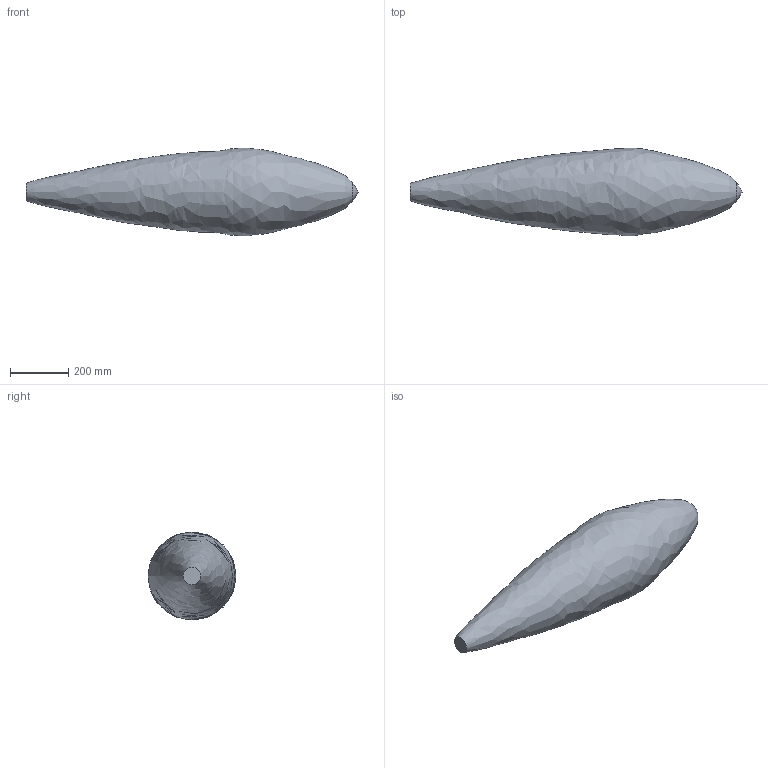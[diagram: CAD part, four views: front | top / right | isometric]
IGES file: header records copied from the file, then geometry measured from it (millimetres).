
Global section: file name: No Iges File Name specified; native system: Autodesk Inventor 2009; preprocessor: AutoDesk Inventor Iges Exporter R2009; author: Oliver Liedtke; date: 20120227.151538; units: millimetre
Bounding box: 1140 x 301.26 x 301.17 mm (x, y, z)
Volume: 44096589.4 mm3; surface area: 774090.5 mm2
Topology: 1 solids, 1 shells, 3 faces, 5 edges, 3 vertices
Faces by surface type: bspline 2, plane 1
